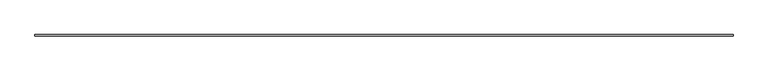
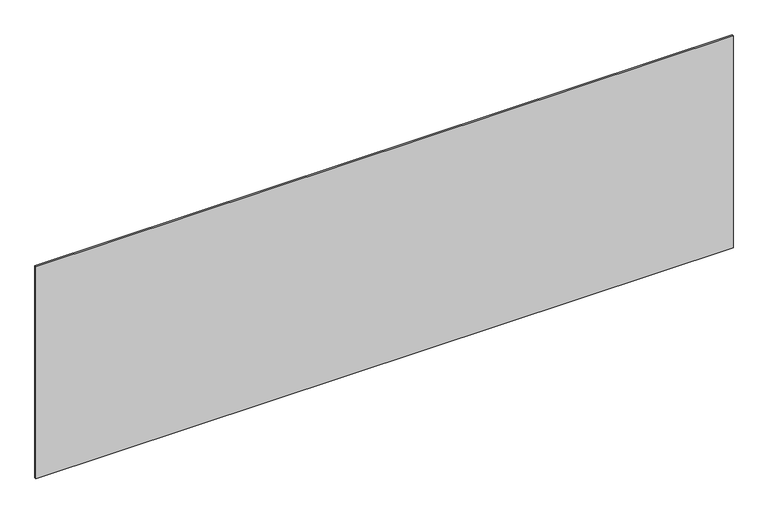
"""IFC4 building model written with IfcOpenShell, lengths in millimetres: plate geometry, システム パネル : 標準."""

from ifc_helpers import new_model, si_unit, origin, origin_with_axes, place, context, project, spatial, polyline, outline, extrude, source, transform, mapped, element, save


def plate_e556b48b(model_context):
    return source(origin(), model_context, "Body", "SweptSolid", [
        extrude(outline(polyline([(2264.1666667, -5.0), (-2264.1666667, -5.0), (-2264.1666667, 5.0), (2264.1666667, 5.0), (2264.1666667, -5.0)])), origin_with_axes(), (0.0, 0.0, 1.0), 1455.9537374),
    ])


if __name__ == "__main__":
    model = new_model("IFC4")
    model_context = context("Model", 3, world=origin())
    ifc_project = project(units=[si_unit("LENGTHUNIT", "METRE", prefix="MILLI")], contexts=[model_context])
    site = spatial("IfcSite", under=ifc_project)
    building = spatial("IfcBuilding", under=site)
    placement = place(None, origin())
    plate_shape = plate_e556b48b(model_context)
    element("IfcPlate", 1, ObjectType="システム パネル : 標準", at=placement, inside=building, context=model_context, shape_type="MappedRepresentation", body=[
        mapped(plate_shape, transform((0.0, 0.0, 0.0), x_axis=(1.0, 0.0, 0.0), y_axis=(0.0, 1.0, 0.0), z_axis=(0.0, 0.0, 1.0))),
    ])
    save(model, "model.ifc")
